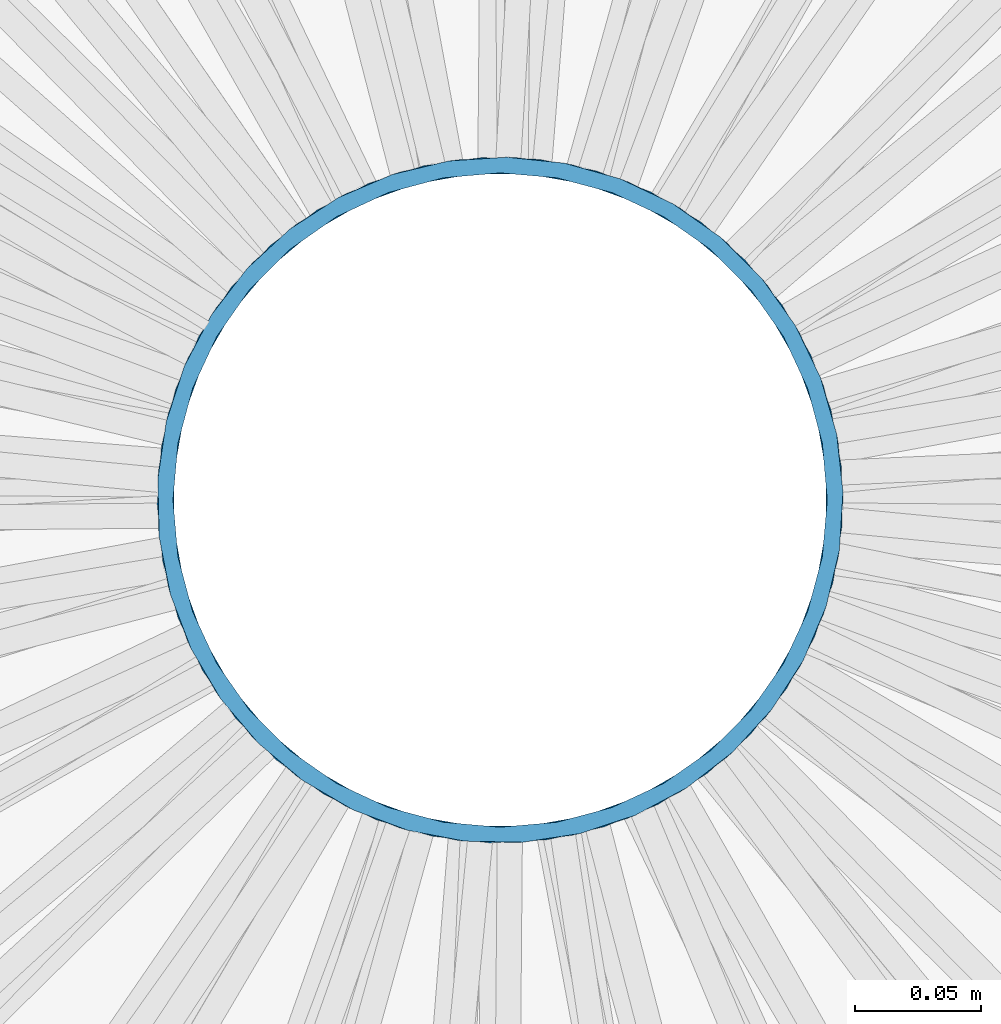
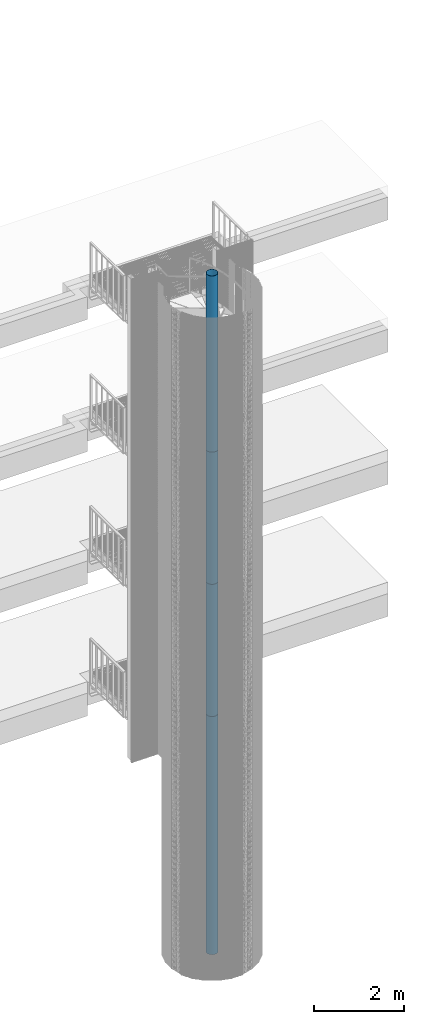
# One storey, part 10 of 1183: 4 columns, 4 elements without a shape of their own.
"""IFC2X3 building model written with IfcOpenShell, lengths in millimetres."""

from ifc_helpers import new_model, si_unit, frame, origin_with_axes, origin_2d_with_axis, place, context, subcontext, project, spatial, hollow_circle, extrude, material, type_object, element, aggregate, save


model = new_model("IFC2X3")

# Units and contexts
model_context = context("Model", 3, precision=1e-05, world=origin_with_axes())
body_context = subcontext(model_context, "Body", "Model", "MODEL_VIEW")
ifc_project = project(units=[si_unit("LENGTHUNIT", "METRE", prefix="MILLI"), si_unit("AREAUNIT", "SQUARE_METRE"), si_unit("VOLUMEUNIT", "CUBIC_METRE"), si_unit("MASSUNIT", "GRAM", prefix="KILO"), si_unit("TIMEUNIT", "SECOND"), si_unit("PLANEANGLEUNIT", "RADIAN"), si_unit("SOLIDANGLEUNIT", "STERADIAN"), si_unit("THERMODYNAMICTEMPERATUREUNIT", "DEGREE_CELSIUS"), si_unit("LUMINOUSINTENSITYUNIT", "LUMEN")], contexts=[model_context])

# Site, building, storey
site_placement = place(None, origin_with_axes())
site = spatial("IfcSite", under=ifc_project, at=site_placement, Name="Undefined", CompositionType="ELEMENT")
building_placement = place(site_placement, origin_with_axes())
building = spatial("IfcBuilding", under=site, at=building_placement, Name="Undefined", CompositionType="ELEMENT")
storey_placement = place(building_placement, origin_with_axes())
storey = spatial("IfcBuildingStorey", under=building, at=storey_placement, Name="Undefined", CompositionType="ELEMENT", Elevation=0.0)

# Assembly, column
assembly_1_placement = place(storey_placement, origin_with_axes())
assembly_1 = element("IfcElementAssembly", 1, at=assembly_1_placement, inside=storey, Name="POTEAU", AssemblyPlace="NOTDEFINED", PredefinedType="NOTDEFINED")
ifc_material = material(Name="STEEL/S235JR")
column_type = type_object("IfcColumnType", Name="TUBE-273*6.3", PredefinedType="NOTDEFINED")
column_1_placement = place(assembly_1_placement, frame((0.0, 0.0, 13690.0), z_axis=(0.0, 0.0, 1.0), x_axis=(0.766044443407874, -0.642787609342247, 0.0)))
column_1 = element("IfcColumn", 2, at=column_1_placement, type_object=column_type, material=ifc_material, Name="POTEAU", context=body_context, shape_type="SweptSolid", body=[
    extrude(hollow_circle(Radius=136.5, WallThickness=6.3, at=origin_2d_with_axis()), frame((0.0, 0.0, 4800.0), z_axis=(0.0, 0.0, -1.0), x_axis=(0.0, 1.0, 0.0)), (0.0, 0.0, 1.0), 4800.0),
])
aggregate(assembly_1, [column_1])

assembly_2_placement = place(storey_placement, origin_with_axes())
assembly_2 = element("IfcElementAssembly", 3, at=assembly_2_placement, inside=storey, Name="POTEAU", AssemblyPlace="NOTDEFINED", PredefinedType="NOTDEFINED")
column_2_placement = place(assembly_2_placement, frame((0.0, 0.0, 10090.0), z_axis=(0.0, 0.0, 1.0), x_axis=(0.422618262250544, -0.906307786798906, -1.9012441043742e-10)))
column_2 = element("IfcColumn", 4, at=column_2_placement, type_object=column_type, material=ifc_material, Name="POTEAU", context=body_context, shape_type="SweptSolid", body=[
    extrude(hollow_circle(Radius=136.5, WallThickness=6.3, at=origin_2d_with_axis()), frame((0.0, 0.0, 3600.0), z_axis=(0.0, 0.0, -1.0), x_axis=(0.0, 1.0, 0.0)), (0.0, 0.0, 1.0), 3600.0),
])
aggregate(assembly_2, [column_2])

assembly_3_placement = place(storey_placement, origin_with_axes())
assembly_3 = element("IfcElementAssembly", 5, at=assembly_3_placement, inside=storey, Name="POTEAU", AssemblyPlace="NOTDEFINED", PredefinedType="NOTDEFINED")
column_3_placement = place(assembly_3_placement, frame((0.0, 0.0, 6490.0), z_axis=(0.0, 0.0, 1.0), x_axis=(0.0, -1.0, 0.0)))
column_3 = element("IfcColumn", 6, at=column_3_placement, type_object=column_type, material=ifc_material, Name="POTEAU", context=body_context, shape_type="SweptSolid", body=[
    extrude(hollow_circle(Radius=136.5, WallThickness=6.3, at=origin_2d_with_axis()), frame((0.0, 0.0, 3600.0), z_axis=(0.0, 0.0, -1.0), x_axis=(0.0, 1.0, 0.0)), (0.0, 0.0, 1.0), 3600.0),
])
aggregate(assembly_3, [column_3])

assembly_4_placement = place(storey_placement, origin_with_axes())
assembly_4 = element("IfcElementAssembly", 7, at=assembly_4_placement, inside=storey, Name="POTEAU", AssemblyPlace="NOTDEFINED", PredefinedType="NOTDEFINED")
column_4_placement = place(assembly_4_placement, frame((0.0, 0.0, 0.0), z_axis=(0.0, 0.0, 1.0), x_axis=(0.499999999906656, -0.866025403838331, 0.0)))
column_4 = element("IfcColumn", 8, at=column_4_placement, type_object=column_type, material=ifc_material, Name="POTEAU", context=body_context, shape_type="SweptSolid", body=[
    extrude(hollow_circle(Radius=136.5, WallThickness=6.3, at=origin_2d_with_axis()), frame((0.0, 0.0, 6490.0), z_axis=(0.0, 0.0, -1.0), x_axis=(0.0, 1.0, 0.0)), (0.0, 0.0, 1.0), 6490.0),
])
aggregate(assembly_4, [column_4])

save(model, "model.ifc")
